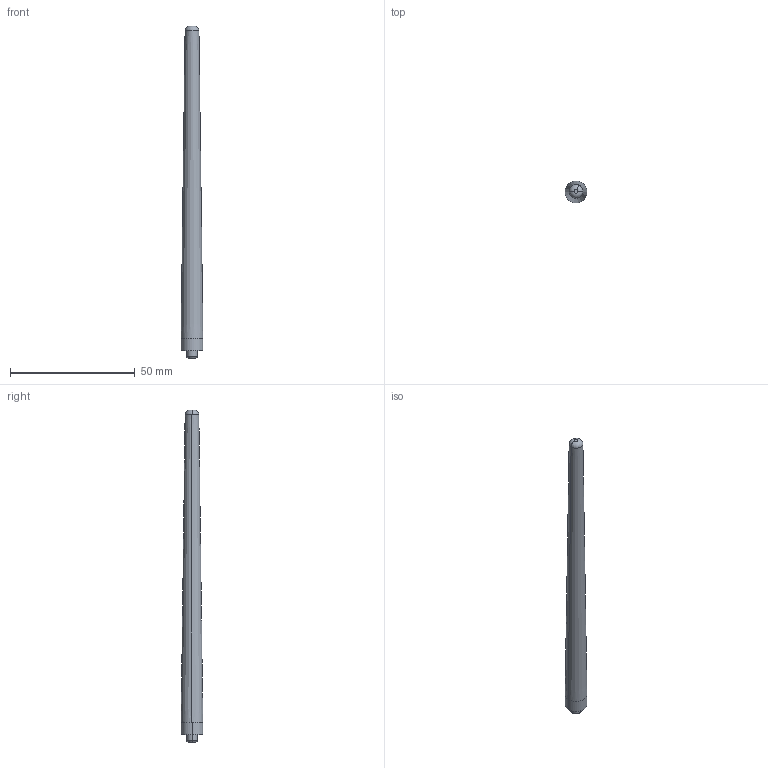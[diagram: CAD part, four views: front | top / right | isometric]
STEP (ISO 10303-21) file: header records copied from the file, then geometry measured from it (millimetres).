
FILE_DESCRIPTION(('CATIA V5 STEP Exchange'),'2;1');
FILE_NAME('D:\姚明阳\1、工装图纸\2、腰托阀（开关）治具工装 -2022.11.26更新\O圈套装工具\腰托阀O圈安装辅助工具.stp','2023-09-07T05:46:45+00:00',('none'),('none'),'CATIA Version 5 Release 21 GA (IN-10)','CATIA V5 STEP AP214','none');
FILE_SCHEMA(('AUTOMOTIVE_DESIGN { 1 0 10303 214 1 1 1 1 }'));
Length unit declared in the file: millimetre
Products named in the file (1): Part21
Bounding box: 8.8 x 8.8 x 133 mm (x, y, z)
Volume: 5440.6 mm3; surface area: 3051.3 mm2
Topology: 1 solids, 1 shells, 15 faces, 32 edges, 20 vertices
Faces by surface type: torus 5, cylinder 4, plane 3, cone 3
Entity records: 414 total; most frequent: CARTESIAN_POINT 74, ORIENTED_EDGE 64, DIRECTION 57, AXIS2_PLACEMENT_3D 40, EDGE_CURVE 32, CIRCLE 25, VERTEX_POINT 20, EDGE_LOOP 16
